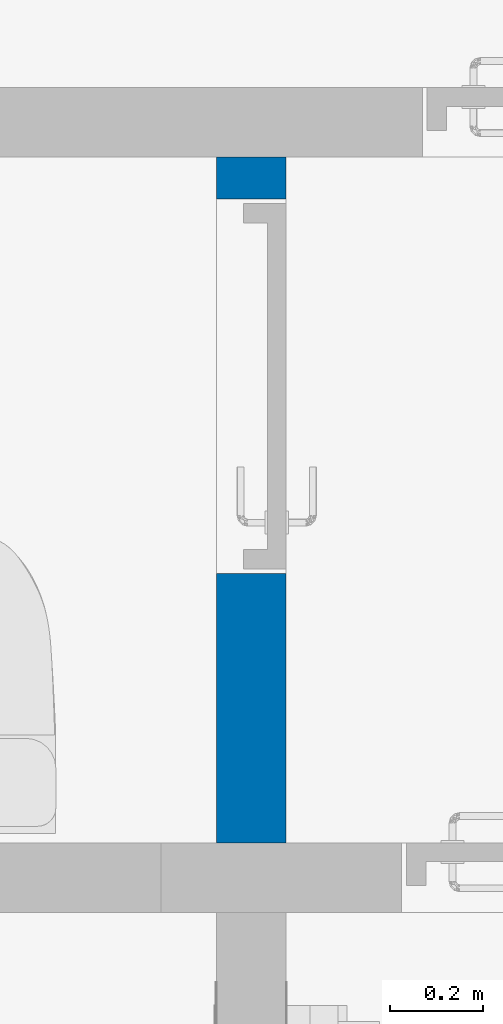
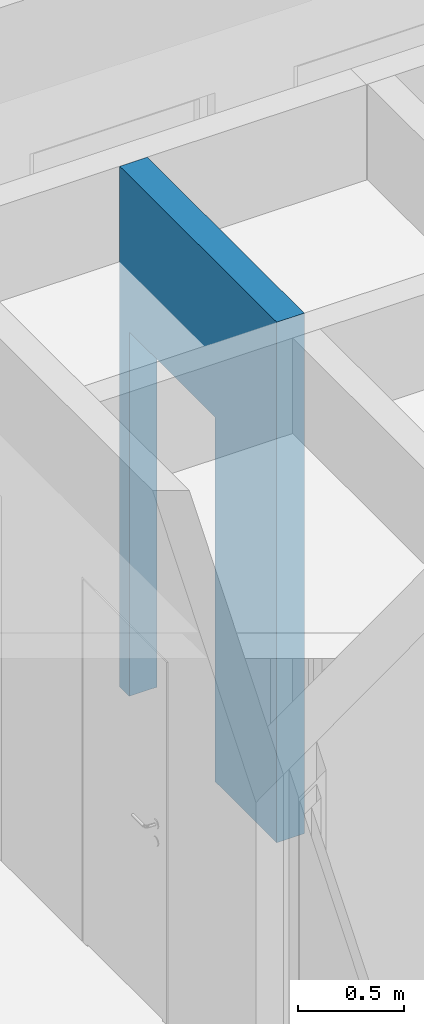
# One storey, part 27 of 58: 1 wall, 1 opening.
"""IFC2X3 building model written with IfcOpenShell, lengths in millimetres."""

from ifc_helpers import new_model, entity, si_unit, converted_unit, derived_unit, direction, frame, frame_2d, origin, place, context, subcontext, project, spatial, rectangle, extrude, material, layer, layer_set, layer_usage, type_object, element, save


model = new_model("IFC2X3")

# Units and contexts
model_context = context("Model", 3, precision=0.01, world=origin(), true_north=direction((0.7716245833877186, 0.6360782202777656)))
body_context = subcontext(model_context, "Body", "Model", "MODEL_VIEW")
ifc_project = project(units=[si_unit("LENGTHUNIT", "METRE", prefix="MILLI"), si_unit("AREAUNIT", "SQUARE_METRE"), converted_unit("PLANEANGLEUNIT", "DEGREE", entity("IfcPlaneAngleMeasure", 0.017453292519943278), si_unit("PLANEANGLEUNIT", "RADIAN"), dimensions=[0, 0, 0, 0, 0, 0, 0]), derived_unit("THERMALTRANSMITTANCEUNIT", [(si_unit("MASSUNIT", "GRAM", prefix="KILO"), 1), (si_unit("THERMODYNAMICTEMPERATUREUNIT", "KELVIN"), -1), (si_unit("TIMEUNIT", "SECOND"), -3)])], contexts=[model_context])

# Site, building, storey
site_placement = place(None, origin())
site = spatial("IfcSite", under=ifc_project, at=site_placement, Name="Default", CompositionType="ELEMENT")
building_placement = place(site_placement, origin())
building = spatial("IfcBuilding", under=site, at=building_placement, CompositionType="ELEMENT")
storey_placement = place(building_placement, frame((0.0, 0.0, 31140.0)))
storey = spatial("IfcBuildingStorey", under=building, at=storey_placement, Name="PLAN U1", CompositionType="ELEMENT", Elevation=31140.000000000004)

# Wall, opening
ifc_material_1 = material(Name="Gips")
ifc_layer_1 = layer(ifc_material_1, 12.5)
ifc_layer_2 = layer(ifc_material_1, 12.5)
ifc_material_2 = material(Name="Stender isolert")
ifc_layer_3 = layer(ifc_material_2, 100.0)
ifc_layer_4 = layer(ifc_material_1, 12.5)
ifc_layer_5 = layer(ifc_material_1, 12.5)
ifc_layer_set = layer_set([ifc_layer_1, ifc_layer_2, ifc_layer_3, ifc_layer_4, ifc_layer_5], Name="Basic Wall:242 IV01 Innervegg 150 mm")
ifc_layer_usage = layer_usage(ifc_layer_set, "AXIS2", "NEGATIVE", 75.0)
wall_type = type_object("IfcWallType", Name="Basic Wall:242 IV01 Innervegg 150 mm", PredefinedType="STANDARD", material=ifc_layer_set)
wall_placement = place(storey_placement, frame((264567.924446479, 61122.378594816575, 0.0), z_axis=(0.0, 0.0, 1.0), x_axis=(0.0, 1.0, 0.0)))
wall = element("IfcWallStandardCase", 1, at=wall_placement, inside=storey, type_object=wall_type, material=ifc_layer_usage, Name="Basic Wall:242 IV01 Innervegg 150 mm", ObjectType="Basic Wall:242 IV01 Innervegg 150 mm", context=body_context, shape_type="SweptSolid", body=[
    extrude(rectangle(XDim=1482.1230447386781, YDim=150.00000000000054, at=frame_2d((741.0615223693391, 0.0), x_axis=(1.0, 0.0))), origin(), (0.0, 0.0, 1.0), 2999.9999999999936),
])
opening_placement = place(wall_placement, frame((1392.1230447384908, 75.0, 0.0)))
element("IfcOpeningElement", 2, at=opening_placement, cuts=wall, Name="Enfløyet:244 Innvendig AAa 8x21M - Tett:1", ObjectType="Opening", context=body_context, shape_type="SweptSolid", body=[
    extrude(rectangle(XDim=2100.0, YDim=810.0, at=frame_2d((1049.9999999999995, 405.0000000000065), x_axis=(1.0, 0.0))), frame((0.0, 0.0, 0.0), z_axis=(0.0, -1.0, 0.0), x_axis=(0.0, 0.0, 1.0)), (0.0, 0.0, 1.0), 150.0),
])

save(model, "model.ifc")
